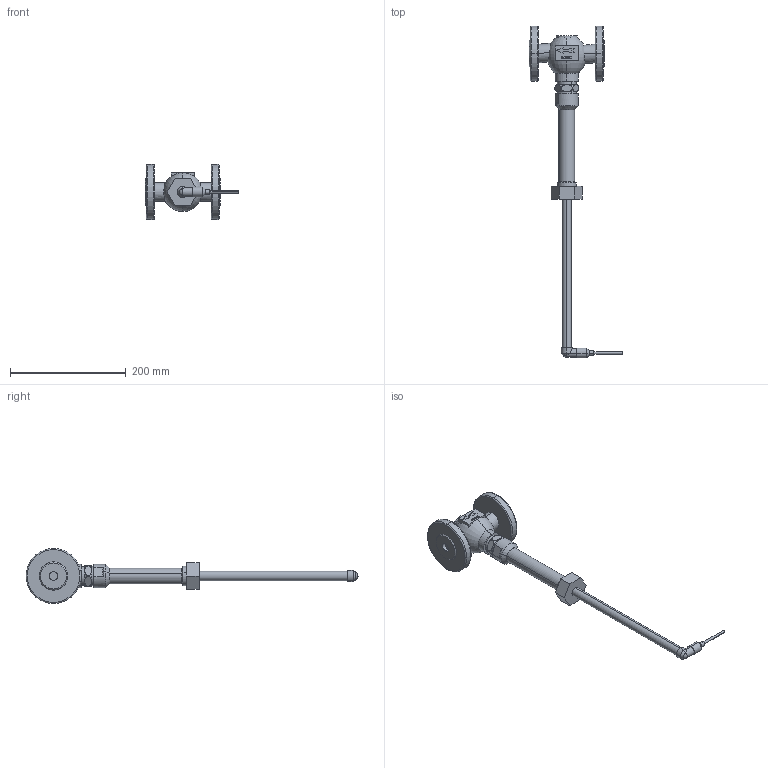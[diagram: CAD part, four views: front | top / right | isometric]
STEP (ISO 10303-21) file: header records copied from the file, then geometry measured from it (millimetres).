
FILE_DESCRIPTION (( 'STEP AP203' ), '1' );
FILE_NAME ('2111(2710)_SS_DIN_015_025_EN-JS1049_B1_VERLST_1.STEP', '2010-03-09T08:49:02', ( '' ), ( '' ), 'SwSTEP 2.0', 'SolidWorks 2006303', '' );
FILE_SCHEMA (( 'CONFIG_CONTROL_DESIGN' ));
Length unit declared in the file: millimetre
Products named in the file (1): 2111(2710)_SS_DIN_015_025_EN-JS1049_B1_VERLST_1
Bounding box: 162 x 573.18 x 95 mm (x, y, z)
Surface area: 98207.2 mm2 (no closed solid volume)
Topology: 0 solids, 5 shells, 124 faces, 395 edges, 286 vertices
Faces by surface type: plane 50, cylinder 34, torus 17, cone 16, bspline 6, sphere 1
Entity records: 5849 total; most frequent: CARTESIAN_POINT 2416, DIRECTION 666, ORIENTED_EDGE 652, EDGE_CURVE 395, VERTEX_POINT 286, AXIS2_PLACEMENT_3D 250, VECTOR 166, LINE 166
